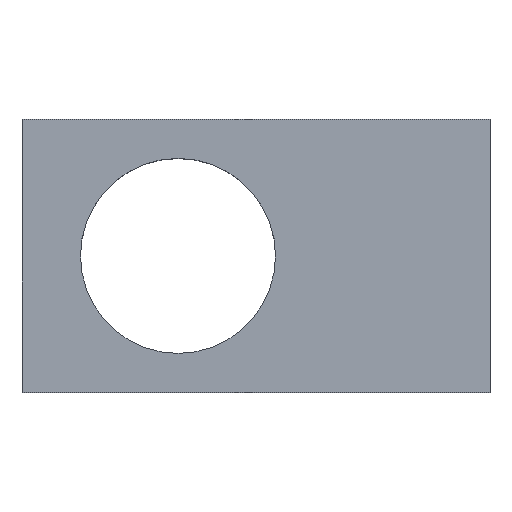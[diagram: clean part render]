
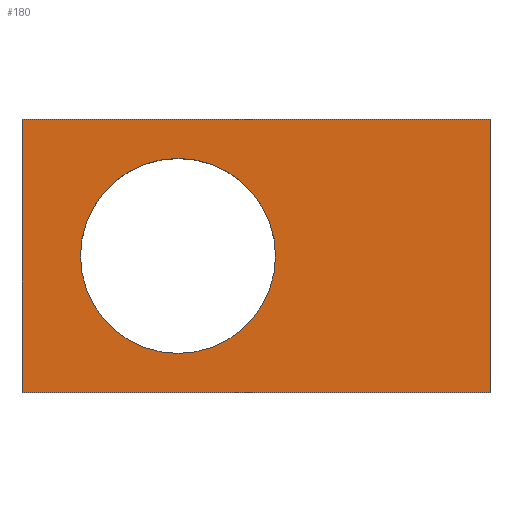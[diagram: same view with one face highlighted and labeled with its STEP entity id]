
A CAD part, top view. The second image highlights one B-rep face of the part: STEP entity #180.
In plain terms, the highlighted planar face has unit normal (0, 0, 1).
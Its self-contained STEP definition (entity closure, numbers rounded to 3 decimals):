
#15=FACE_BOUND('',#43,.T.);
#22=PLANE('',#210);
#32=FACE_OUTER_BOUND('',#42,.T.);
#42=EDGE_LOOP('',(#156,#157,#158,#159));
#43=EDGE_LOOP('',(#160));
#50=CIRCLE('',#205,5.);
#58=LINE('',#286,#75);
#62=LINE('',#298,#79);
#65=LINE('',#304,#82);
#68=LINE('',#308,#85);
#75=VECTOR('',#236,10.);
#79=VECTOR('',#248,10.);
#82=VECTOR('',#253,10.);
#85=VECTOR('',#258,10.);
#92=VERTEX_POINT('',#283);
#93=VERTEX_POINT('',#285);
#94=VERTEX_POINT('',#289);
#97=VERTEX_POINT('',#297);
#99=VERTEX_POINT('',#303);
#110=EDGE_CURVE('',#93,#92,#58,.T.);
#112=EDGE_CURVE('',#94,#94,#50,.T.);
#116=EDGE_CURVE('',#97,#93,#62,.T.);
#119=EDGE_CURVE('',#99,#97,#65,.T.);
#122=EDGE_CURVE('',#92,#99,#68,.T.);
#156=ORIENTED_EDGE('',*,*,#110,.T.);
#157=ORIENTED_EDGE('',*,*,#122,.T.);
#158=ORIENTED_EDGE('',*,*,#119,.T.);
#159=ORIENTED_EDGE('',*,*,#116,.T.);
#160=ORIENTED_EDGE('',*,*,#112,.T.);
#180=ADVANCED_FACE('',(#32,#15),#22,.T.);
#205=AXIS2_PLACEMENT_3D('',#290,#240,#241);
#210=AXIS2_PLACEMENT_3D('',#309,#259,#260);
#236=DIRECTION('',(0.,1.,0.));
#240=DIRECTION('center_axis',(0.,0.,-1.));
#241=DIRECTION('ref_axis',(1.,0.,0.));
#248=DIRECTION('',(1.,0.,0.));
#253=DIRECTION('',(0.,-1.,0.));
#258=DIRECTION('',(-1.,0.,0.));
#259=DIRECTION('center_axis',(0.,0.,1.));
#260=DIRECTION('ref_axis',(1.,0.,0.));
#283=CARTESIAN_POINT('',(12.,7.,5.6));
#285=CARTESIAN_POINT('',(12.,-7.,5.6));
#286=CARTESIAN_POINT('',(12.,-7.,5.6));
#289=CARTESIAN_POINT('',(-9.,0.,5.6));
#290=CARTESIAN_POINT('Origin',(-4.,0.,5.6));
#297=CARTESIAN_POINT('',(-12.,-7.,5.6));
#298=CARTESIAN_POINT('',(-12.,-7.,5.6));
#303=CARTESIAN_POINT('',(-12.,7.,5.6));
#304=CARTESIAN_POINT('',(-12.,7.,5.6));
#308=CARTESIAN_POINT('',(12.,7.,5.6));
#309=CARTESIAN_POINT('Origin',(0.,0.,
5.6));
